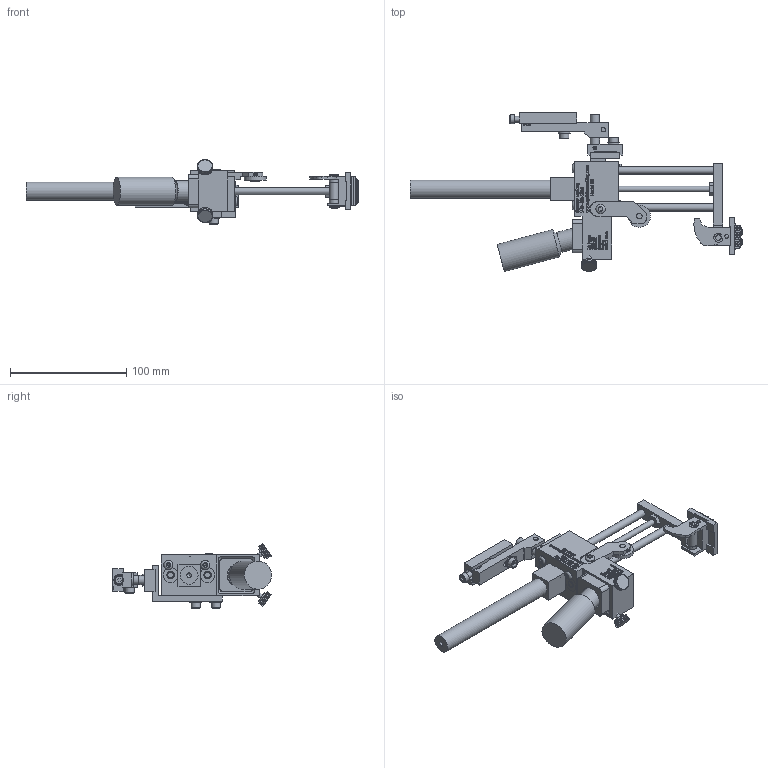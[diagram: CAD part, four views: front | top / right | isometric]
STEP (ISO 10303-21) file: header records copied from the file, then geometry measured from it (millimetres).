
FILE_DESCRIPTION((''),'2;1');
FILE_NAME('C:\Documents and Settings\Ron\My Documents\Inventor\Sprinter Drawing\Machines in Inventor\Model 88\Type\Ext Str\E1\Brkt\Ext\Model 88 ES1 ext w brkt mod 2012.stp','2012-03-16T13:27:12',('Ron'),(''),'Autodesk Inventor 2011','Autodesk Inventor 2011','');
FILE_SCHEMA(('AUTOMOTIVE_DESIGN { 1 0 10303 214 1 1 1 1 }'));
Length unit declared in the file: inch
Products named in the file (43): Model 88  ES1 ext w brkt mod 2012; 88 Frame Body; 66 Linear Bearing; Hexagon Socket Button Head Cap Screw - Inch 8 - 32 x 1/4; Hexagon Socket Head Cap Screw - Inch No. 8 - 32 UNC - 1 1/2; 10 Ink Resevior Lock Screw; INK RESERVOIR ASSY; 88 RESERVOIR; 88 Ink Pad; 66 INK BOTTLE; 88 STD Wheel Bractet Assy (prototype); 44 Wheel Retainer; 44 Cam Wheel; 88 Wheel Bracket Arm (prototype); Hexagon Socket Set Screw - Flat Point - Inch 4-48 UNF x 0.19; 8-32x0.25 Hexagon Socket Button Head Cap Screw ANSI/ASME B18.3; E1 Extended; 88 Rod Carrier Extended ES 1; 88 Rod Carrier; Type A - Hexagon Socket Set Screw - Cup Point - Inch 8-32 UNC x 0.32; 66 PIVOT SHAFT; 66 PIVOT SHAFT LOCKING RING; 23 66 invert block; AS 1112 (4)  - Metric M6; 66 Spring; 19 Rod Carrier Set Screws; 88 CLIP FOR MODELS(2); 88--CLIP plate; Hexagon Socket Set Screw - Flat Point - Inch 6-32 UNC x 0.45; 88 baselock (model sized); 88 baselock STAMP; Model 66, E1 .25 x 5; Model 88 RPB; rpb4; rpb3; rpb-1; rpb2; No. 10-24x0.88 Hexagon socket head cap screw ANSI/ASME B18.3; Type B - Plain Washer (Inch) No. 10 - narrow - Type B; 66 Machine Mounting Pivot Bracket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
Assembly tree (58 placements, depth 4):
  Model 88  ES1 ext w brkt mod 2012
    88 Frame Body
    66 Linear Bearing  x2
    Hexagon Socket Button Head Cap Screw - Inch 8 - 32 x 1/4  x4
    Hexagon Socket Head Cap Screw - Inch No. 8 - 32 UNC - 1 1/2  x2
    10 Ink Resevior Lock Screw  x2
    INK RESERVOIR ASSY
      88 RESERVOIR
      88 Ink Pad
      66 INK BOTTLE
    88 STD Wheel Bractet Assy (prototype)
      44 Wheel Retainer
      44 Cam Wheel
      88 Wheel Bracket Arm (prototype)
      Hexagon Socket Set Screw - Flat Point - Inch 4-48 UNF x 0.19
    8-32x0.25 Hexagon Socket Button Head Cap Screw ANSI/ASME B18.3
    E1 Extended
    88 Rod Carrier Extended ES 1
      88 Rod Carrier
      Type A - Hexagon Socket Set Screw - Cup Point - Inch 8-32 UNC x 0.32
      66 PIVOT SHAFT
      66 PIVOT SHAFT LOCKING RING  x2
      23 66 invert block
      AS 1112 (4)  - Metric M6
      66 Spring
      19 Rod Carrier Set Screws  x2
      88 CLIP FOR MODELS(2)
        88--CLIP plate
        Hexagon Socket Set Screw - Flat Point - Inch 6-32 UNC x 0.45
        88 baselock (model sized)
        88 baselock STAMP
      Model 66, E1 .25 x 5  x2
    Model 88 RPB
      rpb4
      rpb3
      rpb-1
      rpb2
      No. 10-24x0.88 Hexagon socket head cap screw ANSI/ASME B18.3  x5
      Type B - Plain Washer (Inch) No. 10 - narrow - Type B  x4
      66 Machine Mounting Pivot Bracket
      Pin - Hardened Ground Machine Dowel (Inch) 1/8 x 3/4
      Pin - Hardened Ground Machine Dowel (Inch) 1/8 x 3/8
    10-32 PORTS DECAL
Bounding box: 285.06 x 136.58 x 55.4 mm (x, y, z)
Volume: 206142.3 mm3; surface area: 99371.2 mm2
Topology: 426 solids, 426 shells, 6401 faces, 15693 edges, 9719 vertices
Faces by surface type: plane 4457, bspline 1294, cylinder 560, cone 67, torus 23
Full cylindrical faces by diameter (mm): 1.143 x1, 2.261 x1, 2.54 x2, 2.642 x1, 2.845 x1, 3.175 x4, 3.2 x1, 3.302 x14, 3.505 x1, 3.556 x1, 3.683 x2, 3.962 x10, 4.064 x2, 4.166 x10, 4.547 x2, 4.699 x3, 4.75 x4, 4.775 x2, 4.826 x8, 4.864 x2, 4.917 x1, 5.055 x1, 5.156 x7, 5.359 x1, 5.556 x1, 6.325 x4, 6.35 x7, 6.426 x1, 6.604 x1, 6.858 x2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
Entity records: 152441 total; most frequent: CARTESIAN_POINT 45342, ORIENTED_EDGE 23844, DIRECTION 17236, EDGE_CURVE 11922, VECTOR 8520, LINE 8520, VERTEX_POINT 7658, EDGE_LOOP 5338
